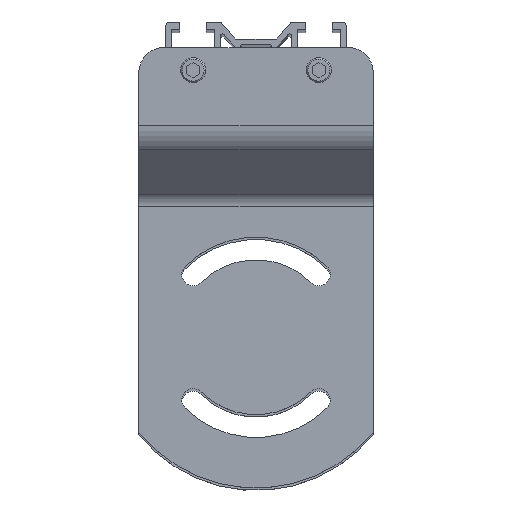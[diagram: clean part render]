
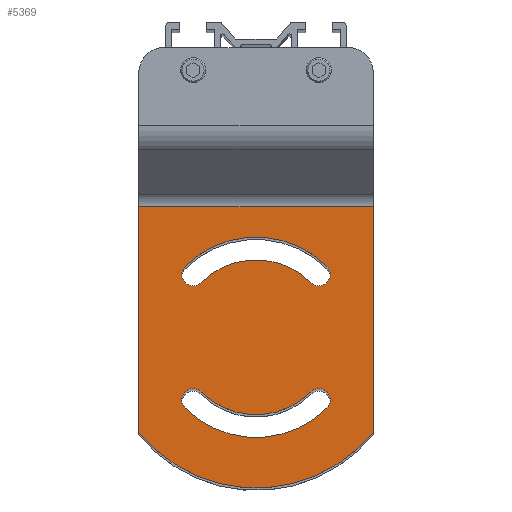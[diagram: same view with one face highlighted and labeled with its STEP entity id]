
A CAD part, top view. The second image highlights one B-rep face of the part: STEP entity #5369.
In plain terms, the highlighted planar face has unit normal (0, 0, 1) as drawn and (0, 0, -1) by its records, which use the part's own axes.
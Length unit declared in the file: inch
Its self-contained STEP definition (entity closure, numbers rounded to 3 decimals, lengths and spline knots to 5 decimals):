
#4777=DIRECTION('',(0.,1.,0.));
#4778=VECTOR('',#4777,3.36221);
#4779=CARTESIAN_POINT('',(0.,0.83579,-0.25));
#4780=LINE('',#4779,#4778);
#4821=DIRECTION('',(0.,1.,0.));
#4822=VECTOR('',#4821,3.36221);
#4823=CARTESIAN_POINT('',(-3.5,0.83579,-0.25));
#4824=LINE('',#4823,#4822);
#4825=CARTESIAN_POINT('',(-1.75,2.25,-0.25));
#4826=DIRECTION('',(0.,0.,-1.));
#4827=DIRECTION('',(0.778,-0.629,0.));
#4828=AXIS2_PLACEMENT_3D('',#4825,#4826,#4827);
#4830=CARTESIAN_POINT('',(-1.75,2.25,-0.25));
#4831=DIRECTION('',(0.,0.,1.));
#4832=DIRECTION('',(0.707,0.707,0.));
#4833=AXIS2_PLACEMENT_3D('',#4830,#4831,#4832);
#4835=CARTESIAN_POINT('',(-0.81238,3.18762,-0.25));
#4836=DIRECTION('',(0.,0.,1.));
#4837=DIRECTION('',(1.,0.,0.));
#4838=AXIS2_PLACEMENT_3D('',#4835,#4836,#4837);
#4840=CARTESIAN_POINT('',(-0.81238,3.18762,-0.25));
#4841=DIRECTION('',(0.,0.,1.));
#4842=DIRECTION('',(-0.707,-0.707,0.));
#4843=AXIS2_PLACEMENT_3D('',#4840,#4841,#4842);
#4845=CARTESIAN_POINT('',(-1.75,2.25,-0.25));
#4846=DIRECTION('',(0.,0.,-1.));
#4847=DIRECTION('',(-0.707,0.707,0.));
#4848=AXIS2_PLACEMENT_3D('',#4845,#4846,#4847);
#4850=CARTESIAN_POINT('',(-2.68762,3.18762,-0.25));
#4851=DIRECTION('',(0.,0.,1.));
#4852=DIRECTION('',(-1.,0.,0.));
#4853=AXIS2_PLACEMENT_3D('',#4850,#4851,#4852);
#4855=CARTESIAN_POINT('',(-2.68762,3.18762,-0.25));
#4856=DIRECTION('',(0.,0.,1.));
#4857=DIRECTION('',(-0.707,0.707,0.));
#4858=AXIS2_PLACEMENT_3D('',#4855,#4856,#4857);
#4860=CARTESIAN_POINT('',(-1.75,2.25,-0.25));
#4861=DIRECTION('',(0.,0.,1.));
#4862=DIRECTION('',(-0.707,-0.707,0.));
#4863=AXIS2_PLACEMENT_3D('',#4860,#4861,#4862);
#4865=CARTESIAN_POINT('',(-2.68762,1.31238,-0.25));
#4866=DIRECTION('',(0.,0.,1.));
#4867=DIRECTION('',(-1.,0.,0.));
#4868=AXIS2_PLACEMENT_3D('',#4865,#4866,#4867);
#4870=CARTESIAN_POINT('',(-2.68762,1.31238,-0.25));
#4871=DIRECTION('',(0.,0.,1.));
#4872=DIRECTION('',(0.707,0.707,0.));
#4873=AXIS2_PLACEMENT_3D('',#4870,#4871,#4872);
#4875=CARTESIAN_POINT('',(-1.75,2.25,-0.25));
#4876=DIRECTION('',(0.,0.,-1.));
#4877=DIRECTION('',(0.707,-0.707,0.));
#4878=AXIS2_PLACEMENT_3D('',#4875,#4876,#4877);
#4880=CARTESIAN_POINT('',(-0.81238,1.31238,-0.25));
#4881=DIRECTION('',(0.,0.,1.));
#4882=DIRECTION('',(1.,0.,0.));
#4883=AXIS2_PLACEMENT_3D('',#4880,#4881,#4882);
#4885=CARTESIAN_POINT('',(-0.81238,1.31238,-0.25));
#4886=DIRECTION('',(0.,0.,1.));
#4887=DIRECTION('',(0.707,-0.707,0.));
#4888=AXIS2_PLACEMENT_3D('',#4885,#4886,#4887);
#4926=DIRECTION('',(-1.,0.,0.));
#4927=VECTOR('',#4926,3.5);
#4928=CARTESIAN_POINT('',(0.,4.198,-0.25));
#4929=LINE('',#4928,#4927);
#5180=CARTESIAN_POINT('',(-2.56742,3.06742,-0.25));
#5182=VERTEX_POINT('',#5180);
#5183=CARTESIAN_POINT('',(-2.80783,3.30783,-0.25));
#5184=CARTESIAN_POINT('',(-2.85762,3.18762,-0.25));
#5185=VERTEX_POINT('',#5183);
#5186=VERTEX_POINT('',#5184);
#5210=CARTESIAN_POINT('',(-0.64238,1.31238,-0.25));
#5212=VERTEX_POINT('',#5210);
#5221=CARTESIAN_POINT('',(-2.80783,1.19217,-0.25));
#5222=CARTESIAN_POINT('',(-0.69217,1.19217,-0.25));
#5223=VERTEX_POINT('',#5221);
#5224=VERTEX_POINT('',#5222);
#5225=CARTESIAN_POINT('',(-0.93258,3.06742,-0.25));
#5227=VERTEX_POINT('',#5225);
#5239=CARTESIAN_POINT('',(-0.93258,1.43258,-0.25));
#5240=VERTEX_POINT('',#5239);
#5247=CARTESIAN_POINT('',(0.,0.83579,-0.25));
#5248=VERTEX_POINT('',#5247);
#5255=CARTESIAN_POINT('',(-3.5,0.83579,-0.25));
#5256=VERTEX_POINT('',#5255);
#5257=CARTESIAN_POINT('',(-0.69217,3.30783,-0.25));
#5258=VERTEX_POINT('',#5257);
#5259=CARTESIAN_POINT('',(0.,4.198,-0.25));
#5260=VERTEX_POINT('',#5259);
#5261=CARTESIAN_POINT('',(-0.64238,3.18762,-0.25));
#5262=VERTEX_POINT('',#5261);
#5279=CARTESIAN_POINT('',(-3.5,4.198,-0.25));
#5280=VERTEX_POINT('',#5279);
#5283=CARTESIAN_POINT('',(-2.56742,1.43258,-0.25));
#5284=CARTESIAN_POINT('',(-2.85762,1.31238,-0.25));
#5285=VERTEX_POINT('',#5283);
#5286=VERTEX_POINT('',#5284);
#5327=CARTESIAN_POINT('',(0.,4.198,-0.25));
#5328=DIRECTION('',(0.,0.,1.));
#5329=DIRECTION('',(1.,0.,0.));
#5330=AXIS2_PLACEMENT_3D('',#5327,#5328,#5329);
#5331=PLANE('',#5330);
#5333=ORIENTED_EDGE('',*,*,#5332,.F.);
#5335=ORIENTED_EDGE('',*,*,#5334,.F.);
#5336=ORIENTED_EDGE('',*,*,#5300,.T.);
#5338=ORIENTED_EDGE('',*,*,#5337,.T.);
#5339=EDGE_LOOP('',(#5333,#5335,#5336,#5338));
#5340=FACE_OUTER_BOUND('',#5339,.F.);
#5342=ORIENTED_EDGE('',*,*,#5341,.F.);
#5344=ORIENTED_EDGE('',*,*,#5343,.F.);
#5346=ORIENTED_EDGE('',*,*,#5345,.F.);
#5348=ORIENTED_EDGE('',*,*,#5347,.F.);
#5350=ORIENTED_EDGE('',*,*,#5349,.F.);
#5352=ORIENTED_EDGE('',*,*,#5351,.F.);
#5353=EDGE_LOOP('',(#5342,#5344,#5346,#5348,#5350,#5352));
#5354=FACE_BOUND('',#5353,.F.);
#5356=ORIENTED_EDGE('',*,*,#5355,.F.);
#5358=ORIENTED_EDGE('',*,*,#5357,.F.);
#5360=ORIENTED_EDGE('',*,*,#5359,.F.);
#5362=ORIENTED_EDGE('',*,*,#5361,.F.);
#5364=ORIENTED_EDGE('',*,*,#5363,.F.);
#5366=ORIENTED_EDGE('',*,*,#5365,.F.);
#5367=EDGE_LOOP('',(#5356,#5358,#5360,#5362,#5364,#5366));
#5368=FACE_BOUND('',#5367,.F.);
#4829=CIRCLE('',#4828,2.25);
#4834=CIRCLE('',#4833,1.496);
#4839=CIRCLE('',#4838,0.17);
#4844=CIRCLE('',#4843,0.17);
#4849=CIRCLE('',#4848,1.156);
#4854=CIRCLE('',#4853,0.17);
#4859=CIRCLE('',#4858,0.17);
#4864=CIRCLE('',#4863,1.496);
#4869=CIRCLE('',#4868,0.17);
#4874=CIRCLE('',#4873,0.17);
#4879=CIRCLE('',#4878,1.156);
#4884=CIRCLE('',#4883,0.17);
#4889=CIRCLE('',#4888,0.17);
#5300=EDGE_CURVE('',#5248,#5260,#4780,.T.);
#5332=EDGE_CURVE('',#5256,#5280,#4824,.T.);
#5334=EDGE_CURVE('',#5248,#5256,#4829,.T.);
#5337=EDGE_CURVE('',#5260,#5280,#4929,.T.);
#5341=EDGE_CURVE('',#5258,#5185,#4834,.T.);
#5343=EDGE_CURVE('',#5262,#5258,#4839,.T.);
#5345=EDGE_CURVE('',#5227,#5262,#4844,.T.);
#5347=EDGE_CURVE('',#5182,#5227,#4849,.T.);
#5349=EDGE_CURVE('',#5186,#5182,#4854,.T.);
#5351=EDGE_CURVE('',#5185,#5186,#4859,.T.);
#5355=EDGE_CURVE('',#5223,#5224,#4864,.T.);
#5357=EDGE_CURVE('',#5286,#5223,#4869,.T.);
#5359=EDGE_CURVE('',#5285,#5286,#4874,.T.);
#5361=EDGE_CURVE('',#5240,#5285,#4879,.T.);
#5363=EDGE_CURVE('',#5212,#5240,#4884,.T.);
#5365=EDGE_CURVE('',#5224,#5212,#4889,.T.);
#5369=ADVANCED_FACE('',(#5340,#5354,#5368),#5331,.F.);
